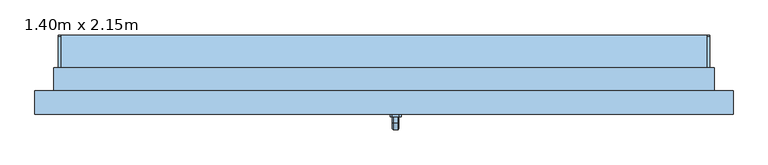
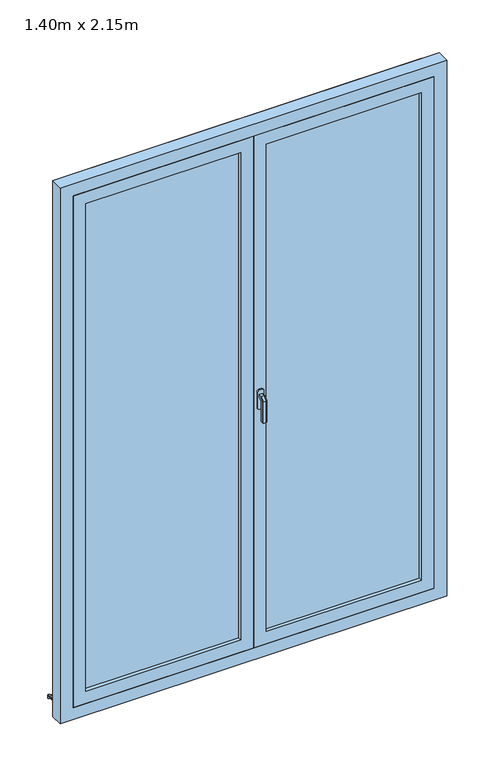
"""IFC4 building model written with IfcOpenShell, lengths in millimetres: window geometry, PF 2 Vantaux - Droits : 1.40m x 2.15m."""

from ifc_helpers import new_model, si_unit, point, frame, frame_2d, origin, place, context, project, spatial, polyline, circle_curve, trimmed, segment, composite_curve, outline, extrude, faceted_brep, source, transform, mapped, element, save


def window_1_40m_x_2_15m_17989232(model_context):
    return source(origin(), model_context, "Body", "SolidModel", [
        faceted_brep([(30.6460097, -86.0, 1122.0339292), (32.0339292, -86.0, 1120.6460097), (32.0339292, -86.0, 1109.3323012), (30.6676988, -86.0, 1107.9660708), (19.3323012, -86.0, 1107.9660708), (17.9660708, -86.0, 1109.3323012), (17.9660708, -86.0, 1120.6460097), (19.3539903, -86.0, 1122.0339292), (30.6460097, -98.9135489, 1122.0339292), (32.0339292, -98.3386538, 1120.6460097), (32.0339292, -111.6460097, 1107.3386538), (32.0339292, -111.6460097, 1020.0), (32.0339292, -100.3323012, 1020.0), (32.0339292, -100.3323012, 1102.6523623), (32.0339292, -93.6523623, 1109.3323012), (30.6676988, -93.0864511, 1107.9660708), (19.3323012, -93.0864511, 1107.9660708), (17.9660708, -93.6523623, 1109.3323012), (17.9660708, -100.3323012, 1102.6523623), (17.9660708, -100.3323012, 1020.0), (17.9660708, -111.6460097, 1020.0), (17.9660708, -111.6460097, 1107.3386538), (17.9660708, -98.3386538, 1120.6460097), (19.3539903, -98.9135489, 1122.0339292), (30.6460097, -113.0339292, 1107.9135489), (30.6676988, -98.9660708, 1102.0864511), (19.3323012, -98.9660708, 1102.0864511), (19.3539903, -113.0339292, 1107.9135489), (30.6460097, -113.0339292, 1020.0), (19.3539903, -113.0339292, 1020.0), (19.3323012, -98.9660708, 1020.0), (30.6676988, -98.9660708, 1020.0)], [[[0, 1, 2, 3, 4, 5, 6, 7]], [[1, 0, 8, 9]], [[2, 1, 9, 10, 11, 12, 13, 14]], [[3, 2, 14, 15]], [[4, 3, 15, 16]], [[5, 4, 16, 17]], [[6, 5, 17, 18, 19, 20, 21, 22]], [[7, 6, 22, 23]], [[0, 7, 23, 8]], [[9, 8, 24, 10]], [[15, 14, 13, 25]], [[16, 15, 25, 26]], [[17, 16, 26, 18]], [[23, 22, 21, 27]], [[8, 23, 27, 24]], [[28, 29, 20, 19, 30, 31, 12, 11]], [[10, 24, 28, 11]], [[25, 13, 12, 31]], [[26, 25, 31, 30]], [[18, 26, 30, 19]], [[27, 21, 20, 29]], [[24, 27, 29, 28]]]),
        extrude(outline(polyline([(1140.0, 32.0), (1140.0, 18.0), (1135.0, 13.0), (1065.0, 13.0), (1060.0, 18.0), (1060.0, 32.0), (1065.0, 37.0), (1135.0, 37.0), (1140.0, 32.0)])), frame((0.0, -86.0, 0.0), z_axis=(0.0, 1.0, 0.0), x_axis=(0.0, 0.0, 1.0)), (0.0, 0.0, 1.0), 6.0),
        extrude(outline(polyline([(90.0288776, 30.7927954), (90.0288776, 19.7145929), (85.0288776, 20.2401141), (85.0288776, 26.0631048), (0.0, 35.0), (0.0, 50.0), (5.0, 50.0), (5.0, 39.7296906), (90.0288776, 30.7927954)])), frame((-700.0, 0.0, 0.0), z_axis=(1.0, 0.0, 0.0), x_axis=(0.0, 1.0, 0.0)), (0.0, 0.0, 1.0), 1400.0),
        extrude(outline(composite_curve([segment(polyline([(90.0288776, 30.7927954), (5.0, 39.7296906), (5.0, 44.757232), (86.4469915, 36.1968082)]), True, "CONTINUOUS"), segment(trimmed(circle_curve(frame_2d((86.0288776, 32.2187207)), 4.0), [point((86.4469915, 36.1968082))], [point((90.0288776, 32.2187207))], False, "CARTESIAN"), True, "CONTINUOUS"), segment(polyline([(90.0288776, 32.2187207), (90.0288776, 30.7927954)]), True, "CONTINUOUS")], self_intersect=False)), frame((-700.0, 0.0, 0.0), z_axis=(1.0, 0.0, 0.0), x_axis=(0.0, 1.0, 0.0)), (0.0, 0.0, 1.0), 5.0),
        extrude(outline(composite_curve([segment(polyline([(90.0288776, 30.7927954), (5.0, 39.7296906), (5.0, 44.757232), (86.4469915, 36.1968082)]), True, "CONTINUOUS"), segment(trimmed(circle_curve(frame_2d((86.0288776, 32.2187207)), 4.0), [point((86.4469915, 36.1968082))], [point((90.0288776, 32.2187207))], False, "CARTESIAN"), True, "CONTINUOUS"), segment(polyline([(90.0288776, 32.2187207), (90.0288776, 30.7927954)]), True, "CONTINUOUS")], self_intersect=False)), frame((695.0, 0.0, 0.0), z_axis=(1.0, 0.0, 0.0), x_axis=(0.0, 1.0, 0.0)), (0.0, 0.0, 1.0), 5.0),
        extrude(outline(polyline([(85.0, 0.0), (2185.0, 0.0), (2185.0, -700.0), (85.0, -700.0), (85.0, 0.0)]), holes=[polyline([(135.0, -650.0), (2135.0, -650.0), (2135.0, -50.0), (135.0, -50.0), (135.0, -650.0)])]), frame((0.0, -80.0, 0.0), z_axis=(0.0, 1.0, 0.0), x_axis=(0.0, 0.0, 1.0)), (0.0, 0.0, 1.0), 40.0),
        extrude(outline(polyline([(50.0, -54.0), (650.0, -54.0), (650.0, -66.0), (50.0, -66.0), (50.0, -54.0)])), frame((0.0, 0.0, 135.0), z_axis=(0.0, 0.0, 1.0), x_axis=(1.0, 0.0, 0.0)), (0.0, 0.0, 1.0), 2000.0),
        extrude(outline(polyline([(-650.0, -54.0), (-50.0, -54.0), (-50.0, -66.0), (-650.0, -66.0), (-650.0, -54.0)])), frame((0.0, 0.0, 135.0), z_axis=(0.0, 0.0, 1.0), x_axis=(1.0, 0.0, 0.0)), (0.0, 0.0, 1.0), 2000.0),
        extrude(outline(polyline([(85.0, 700.0), (2185.0, 700.0), (2185.0, 0.0), (85.0, 0.0), (85.0, 700.0)]), holes=[polyline([(135.0, 50.0), (2135.0, 50.0), (2135.0, 650.0), (135.0, 650.0), (135.0, 50.0)])]), frame((0.0, -80.0, 0.0), z_axis=(0.0, 1.0, 0.0), x_axis=(0.0, 0.0, 1.0)), (0.0, 0.0, 1.0), 40.0),
        faceted_brep([(-750.0, -80.0, 35.0), (-750.0, -30.0, 35.0), (-700.0, -30.0, 35.0), (-700.0, 0.0, 35.0), (700.0, 0.0, 35.0), (700.0, -30.0, 35.0), (750.0, -30.0, 35.0), (750.0, -80.0, 35.0), (-750.0, -80.0, 2235.0), (-750.0, -30.0, 2235.0), (750.0, -30.0, 2235.0), (700.0, -30.0, 74.3761425), (-700.0, -30.0, 74.3761425), (-685.0, -30.0, 2170.0), (-685.0, -30.0, 100.0), (685.0, -30.0, 100.0), (685.0, -30.0, 2170.0), (-700.0, 20.0, 60.9786829), (-700.0, 20.0, 45.0), (-700.0, 10.0, 45.0), (-700.0, 10.0, 50.0), (-700.0, 0.0, 50.0), (700.0, 0.0, 50.0), (700.0, 10.0, 50.0), (700.0, 10.0, 45.0), (700.0, 20.0, 45.0), (700.0, 20.0, 60.9786829), (750.0, -80.0, 2235.0), (700.0, -80.0, 2185.0), (700.0, -80.0, 85.0), (-700.0, -80.0, 85.0), (-700.0, -80.0, 2185.0), (-685.0, -40.0, 2170.0), (-685.0, -40.0, 100.0), (685.0, -40.0, 100.0), (685.0, -40.0, 2170.0), (700.0, -40.0, 2185.0), (-700.0, -40.0, 2185.0), (-700.0, -40.0, 85.0), (700.0, -40.0, 85.0)], [[[0, 1, 2, 3, 4, 5, 6, 7]], [[1, 0, 8, 9]], [[1, 9, 10, 6, 5, 11, 12, 2], [13, 14, 15, 16]], [[12, 17, 18, 19, 20, 21, 3, 2]], [[3, 21, 22, 4]], [[4, 22, 23, 24, 25, 26, 11, 5]], [[6, 10, 27, 7]], [[0, 7, 27, 8], [28, 29, 30, 31]], [[13, 32, 33, 14]], [[33, 34, 15, 14]], [[35, 16, 15, 34]], [[17, 12, 11, 26]], [[36, 37, 38, 39], [32, 35, 34, 33]], [[38, 37, 31, 30]], [[30, 29, 39, 38]], [[28, 36, 39, 29]], [[18, 17, 26, 25]], [[19, 18, 25, 24]], [[20, 19, 24, 23]], [[21, 20, 23, 22]], [[13, 16, 35, 32]], [[37, 36, 28, 31]], [[10, 9, 8, 27]]]),
        extrude(outline(polyline([(35.0, -710.0), (35.0, -700.0), (2185.0, -700.0), (2185.0, 700.0), (35.0, 700.0), (35.0, 710.0), (2195.0, 710.0), (2195.0, -710.0), (35.0, -710.0)])), frame((0.0, -30.0, 0.0), z_axis=(0.0, 1.0, 0.0), x_axis=(0.0, 0.0, 1.0)), (0.0, 0.0, 1.0), 50.0),
        extrude(outline(polyline([(20.0, -32.0), (20.0, -40.0), (-20.0, -40.0), (-20.0, -32.0), (20.0, -32.0)])), frame((0.0, 0.0, 100.0), z_axis=(0.0, 0.0, 1.0), x_axis=(1.0, 0.0, 0.0)), (0.0, 0.0, 1.0), 2070.0),
    ])


if __name__ == "__main__":
    model = new_model("IFC4")
    model_context = context("Model", 3, world=origin())
    ifc_project = project(units=[si_unit("LENGTHUNIT", "METRE", prefix="MILLI")], contexts=[model_context])
    site = spatial("IfcSite", under=ifc_project)
    building = spatial("IfcBuilding", under=site)
    placement = place(None, origin())
    window_1_40m_x_2_15m_shape = window_1_40m_x_2_15m_17989232(model_context)
    element("IfcWindow", 1, ObjectType="PF 2 Vantaux - Droits : 1.40m x 2.15m", at=placement, inside=building, context=model_context, shape_type="MappedRepresentation", body=[
        mapped(window_1_40m_x_2_15m_shape, transform((0.0, 0.0, 0.0), x_axis=(1.0, 0.0, 0.0), y_axis=(0.0, 1.0, 0.0), z_axis=(0.0, 0.0, 1.0))),
    ])
    save(model, "model.ifc")
